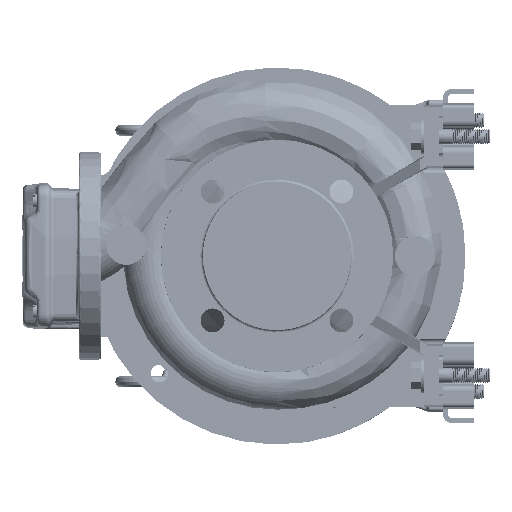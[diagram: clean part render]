
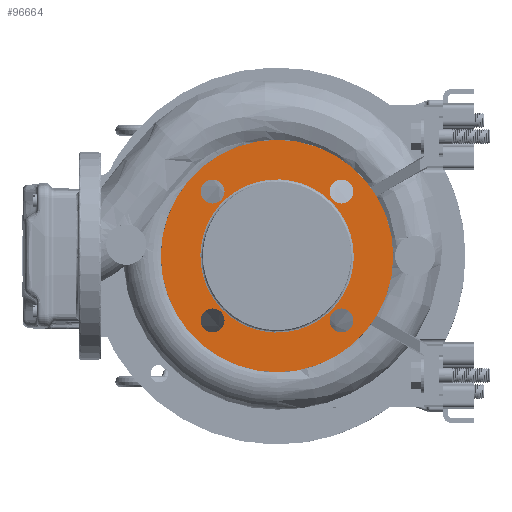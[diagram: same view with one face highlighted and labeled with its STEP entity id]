
A CAD part, left-side view. The second image highlights one B-rep face of the part: STEP entity #96664.
In plain terms, the highlighted planar face has unit normal (-1, 0, 0).
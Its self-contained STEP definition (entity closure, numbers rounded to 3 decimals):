
#2501 = DIRECTION ( 'NONE',  ( 0., 0., 1. ) ) ;
#2571 = DIRECTION ( 'NONE',  ( 0., 0., 1. ) ) ;
#2720 = DIRECTION ( 'NONE',  ( 0., 0., 1. ) ) ;
#2833 = VERTEX_POINT ( 'NONE', #105011 ) ;
#5885 = FACE_BOUND ( 'NONE', #110122, .T. ) ;
#7205 = DIRECTION ( 'NONE',  ( -1., 0., 0. ) ) ;
#7766 = CARTESIAN_POINT ( 'NONE',  ( -33.099, 105.823, 289.961 ) ) ;
#8014 = CARTESIAN_POINT ( 'NONE',  ( -33.099, 96.089, 248.196 ) ) ;
#9478 = CIRCLE ( 'NONE', #89019, 9.5 ) ;
#9586 = CARTESIAN_POINT ( 'NONE',  ( -33.099, 218.089, 126.196 ) ) ;
#11735 = CARTESIAN_POINT ( 'NONE',  ( -33.099, 208.354, 299.461 ) ) ;
#12648 = CIRCLE ( 'NONE', #89490, 92.5 ) ;
#13214 = CARTESIAN_POINT ( 'NONE',  ( -33.099, 157.089, 155.696 ) ) ;
#13859 = EDGE_CURVE ( 'NONE', #72274, #107757, #76980, .T. ) ;
#15950 = VERTEX_POINT ( 'NONE', #54238 ) ;
#17981 = CARTESIAN_POINT ( 'NONE',  ( -33.099, 96.089, 370.196 ) ) ;
#18312 = FACE_BOUND ( 'NONE', #79184, .T. ) ;
#19571 = CARTESIAN_POINT ( 'NONE',  ( -33.099, 105.823, 196.931 ) ) ;
#20904 = CIRCLE ( 'NONE', #84482, 9.5 ) ;
#21179 = CARTESIAN_POINT ( 'NONE',  ( -33.099, 208.354, 206.431 ) ) ;
#24821 = CARTESIAN_POINT ( 'NONE',  ( -33.099, 63.479, 154.586 ) ) ;
#25329 = AXIS2_PLACEMENT_3D ( 'NONE', #65174, #115816, #103385 ) ;
#29990 = DIRECTION ( 'NONE',  ( 0., 0., 1. ) ) ;
#31173 = EDGE_CURVE ( 'NONE', #77508, #107294, #61967, .T. ) ;
#34404 =( BOUNDED_CURVE ( )  B_SPLINE_CURVE ( 3, ( #60278, #9586, #161605, #149959 ),
 .UNSPECIFIED., .F., .F. ) 
 B_SPLINE_CURVE_WITH_KNOTS ( ( 4, 4 ),
 ( 0., 1. ),
 .UNSPECIFIED. ) 
 CURVE ( )  GEOMETRIC_REPRESENTATION_ITEM ( )  RATIONAL_B_SPLINE_CURVE ( ( 0.957, 0.319, 0.319, 0.957 ) ) 
 REPRESENTATION_ITEM ( '' )  );
#34987 = DIRECTION ( 'NONE',  ( -1., 0., 0. ) ) ;
#35347 = AXIS2_PLACEMENT_3D ( 'NONE', #85247, #7205, #133478 ) ;
#36584 = ORIENTED_EDGE ( 'NONE', *, *, #73104, .F. ) ;
#38810 = CARTESIAN_POINT ( 'NONE',  ( -33.099, 105.823, 308.961 ) ) ;
#41739 = EDGE_CURVE ( 'NONE', #41844, #160036, #34404, .T. ) ;
#41844 = VERTEX_POINT ( 'NONE', #69257 ) ;
#43554 = CARTESIAN_POINT ( 'NONE',  ( -33.099, 208.354, 187.431 ) ) ;
#46840 = CARTESIAN_POINT ( 'NONE',  ( -33.099, 105.823, 299.461 ) ) ;
#50323 = CARTESIAN_POINT ( 'NONE',  ( -33.099, 208.354, 196.931 ) ) ;
#50916 = ORIENTED_EDGE ( 'NONE', *, *, #94481, .F. ) ;
#53678 = ORIENTED_EDGE ( 'NONE', *, *, #157392, .F. ) ;
#53796 = CIRCLE ( 'NONE', #93539, 92.5 ) ;
#54238 = CARTESIAN_POINT ( 'NONE',  ( -33.099, 208.354, 289.961 ) ) ;
#55475 = CARTESIAN_POINT ( 'NONE',  ( -33.099, 96.089, 248.196 ) ) ;
#56903 = DIRECTION ( 'NONE',  ( -1., 0., 0. ) ) ;
#57158 = CIRCLE ( 'NONE', #25329, 9.5 ) ;
#57374 = DIRECTION ( 'NONE',  ( -1., 0., 0. ) ) ;
#58540 = EDGE_LOOP ( 'NONE', ( #156363, #36584 ) ) ;
#59915 = CARTESIAN_POINT ( 'NONE',  ( -33.099, 105.823, 206.431 ) ) ;
#60278 = CARTESIAN_POINT ( 'NONE',  ( -33.099, 218.089, 248.196 ) ) ;
#61967 = CIRCLE ( 'NONE', #35347, 9.5 ) ;
#64805 = DIRECTION ( 'NONE',  ( -1., 0., 0. ) ) ;
#65174 = CARTESIAN_POINT ( 'NONE',  ( -33.099, 208.354, 196.931 ) ) ;
#69033 = CIRCLE ( 'NONE', #85022, 9.5 ) ;
#69257 = CARTESIAN_POINT ( 'NONE',  ( -33.099, 218.089, 248.196 ) ) ;
#72274 = VERTEX_POINT ( 'NONE', #7766 ) ;
#73104 = EDGE_CURVE ( 'NONE', #76788, #98744, #57158, .T. ) ;
#74994 = CARTESIAN_POINT ( 'NONE',  ( -33.099, 208.354, 308.961 ) ) ;
#76788 = VERTEX_POINT ( 'NONE', #43554 ) ;
#76980 = CIRCLE ( 'NONE', #103547, 9.5 ) ;
#77508 = VERTEX_POINT ( 'NONE', #80604 ) ;
#78207 = EDGE_LOOP ( 'NONE', ( #53678, #101277 ) ) ;
#79184 = EDGE_LOOP ( 'NONE', ( #144131, #164129 ) ) ;
#80604 = CARTESIAN_POINT ( 'NONE',  ( -33.099, 105.823, 187.431 ) ) ;
#84482 = AXIS2_PLACEMENT_3D ( 'NONE', #19571, #145873, #123361 ) ;
#85022 = AXIS2_PLACEMENT_3D ( 'NONE', #50323, #125942, #125133 ) ;
#85247 = CARTESIAN_POINT ( 'NONE',  ( -33.099, 105.823, 196.931 ) ) ;
#85350 = AXIS2_PLACEMENT_3D ( 'NONE', #24821, #99621, #124543 ) ;
#89019 = AXIS2_PLACEMENT_3D ( 'NONE', #46840, #56903, #108385 ) ;
#89490 = AXIS2_PLACEMENT_3D ( 'NONE', #157857, #117986, #2571 ) ;
#91541 = ORIENTED_EDGE ( 'NONE', *, *, #31173, .F. ) ;
#92191 = CARTESIAN_POINT ( 'NONE',  ( -33.099, 105.823, 299.461 ) ) ;
#93539 = AXIS2_PLACEMENT_3D ( 'NONE', #145471, #57374, #29990 ) ;
#94481 = EDGE_CURVE ( 'NONE', #126008, #15950, #98183, .T. ) ;
#96664 = ADVANCED_FACE ( 'NONE', ( #18312, #5885, #107207, #145425, #161117, #123722 ), #110458, .F. ) ;
#98183 = CIRCLE ( 'NONE', #114047, 9.5 ) ;
#98291 = VERTEX_POINT ( 'NONE', #13214 ) ;
#98744 = VERTEX_POINT ( 'NONE', #21179 ) ;
#99591 = EDGE_CURVE ( 'NONE', #98291, #2833, #53796, .T. ) ;
#99621 = DIRECTION ( 'NONE',  ( 1., 0., 0. ) ) ;
#101277 = ORIENTED_EDGE ( 'NONE', *, *, #13859, .F. ) ;
#103385 = DIRECTION ( 'NONE',  ( 0., 0., 1. ) ) ;
#103547 = AXIS2_PLACEMENT_3D ( 'NONE', #92191, #64805, #2501 ) ;
#103752 = EDGE_CURVE ( 'NONE', #160036, #41844, #104574, .T. ) ;
#104448 = ORIENTED_EDGE ( 'NONE', *, *, #99591, .T. ) ;
#104574 =( BOUNDED_CURVE ( )  B_SPLINE_CURVE ( 3, ( #8014, #17981, #135085, #144294 ),
 .UNSPECIFIED., .F., .T. ) 
 B_SPLINE_CURVE_WITH_KNOTS ( ( 4, 4 ),
 ( 0., 1. ),
 .UNSPECIFIED. ) 
 CURVE ( )  GEOMETRIC_REPRESENTATION_ITEM ( )  RATIONAL_B_SPLINE_CURVE ( ( 0.957, 0.319, 0.319, 0.957 ) ) 
 REPRESENTATION_ITEM ( '' )  );
#105011 = CARTESIAN_POINT ( 'NONE',  ( -33.099, 157.089, 340.696 ) ) ;
#106114 = ORIENTED_EDGE ( 'NONE', *, *, #159513, .T. ) ;
#107207 = FACE_BOUND ( 'NONE', #58540, .T. ) ;
#107294 = VERTEX_POINT ( 'NONE', #59915 ) ;
#107757 = VERTEX_POINT ( 'NONE', #38810 ) ;
#108385 = DIRECTION ( 'NONE',  ( 0., 0., 1. ) ) ;
#110122 = EDGE_LOOP ( 'NONE', ( #50916, #111694 ) ) ;
#110330 = EDGE_CURVE ( 'NONE', #98744, #76788, #69033, .T. ) ;
#110458 = PLANE ( 'NONE',  #85350 ) ;
#111694 = ORIENTED_EDGE ( 'NONE', *, *, #154645, .F. ) ;
#114047 = AXIS2_PLACEMENT_3D ( 'NONE', #11735, #34987, #136381 ) ;
#115816 = DIRECTION ( 'NONE',  ( -1., 0., 0. ) ) ;
#117986 = DIRECTION ( 'NONE',  ( -1., 0., 0. ) ) ;
#118208 = CIRCLE ( 'NONE', #160675, 9.5 ) ;
#123361 = DIRECTION ( 'NONE',  ( 0., 0., 1. ) ) ;
#123722 = FACE_OUTER_BOUND ( 'NONE', #151734, .T. ) ;
#124543 = DIRECTION ( 'NONE',  ( 0., 1., 0. ) ) ;
#125133 = DIRECTION ( 'NONE',  ( 0., 0., 1. ) ) ;
#125268 = ORIENTED_EDGE ( 'NONE', *, *, #133988, .F. ) ;
#125942 = DIRECTION ( 'NONE',  ( -1., 0., 0. ) ) ;
#126008 = VERTEX_POINT ( 'NONE', #74994 ) ;
#130595 = DIRECTION ( 'NONE',  ( -1., 0., 0. ) ) ;
#133478 = DIRECTION ( 'NONE',  ( 0., 0., 1. ) ) ;
#133988 = EDGE_CURVE ( 'NONE', #107294, #77508, #20904, .T. ) ;
#135085 = CARTESIAN_POINT ( 'NONE',  ( -33.099, 218.089, 370.196 ) ) ;
#136381 = DIRECTION ( 'NONE',  ( 0., 0., 1. ) ) ;
#144131 = ORIENTED_EDGE ( 'NONE', *, *, #41739, .F. ) ;
#144294 = CARTESIAN_POINT ( 'NONE',  ( -33.099, 218.089, 248.196 ) ) ;
#145425 = FACE_BOUND ( 'NONE', #152379, .T. ) ;
#145471 = CARTESIAN_POINT ( 'NONE',  ( -33.099, 157.089, 248.196 ) ) ;
#145873 = DIRECTION ( 'NONE',  ( -1., 0., 0. ) ) ;
#149959 = CARTESIAN_POINT ( 'NONE',  ( -33.099, 96.089, 248.196 ) ) ;
#151734 = EDGE_LOOP ( 'NONE', ( #106114, #104448 ) ) ;
#152379 = EDGE_LOOP ( 'NONE', ( #125268, #91541 ) ) ;
#154645 = EDGE_CURVE ( 'NONE', #15950, #126008, #118208, .T. ) ;
#156363 = ORIENTED_EDGE ( 'NONE', *, *, #110330, .F. ) ;
#157392 = EDGE_CURVE ( 'NONE', #107757, #72274, #9478, .T. ) ;
#157857 = CARTESIAN_POINT ( 'NONE',  ( -33.099, 157.089, 248.196 ) ) ;
#158004 = CARTESIAN_POINT ( 'NONE',  ( -33.099, 208.354, 299.461 ) ) ;
#159513 = EDGE_CURVE ( 'NONE', #2833, #98291, #12648, .T. ) ;
#160036 = VERTEX_POINT ( 'NONE', #55475 ) ;
#160675 = AXIS2_PLACEMENT_3D ( 'NONE', #158004, #130595, #2720 ) ;
#161117 = FACE_BOUND ( 'NONE', #78207, .T. ) ;
#161605 = CARTESIAN_POINT ( 'NONE',  ( -33.099, 96.089, 126.196 ) ) ;
#164129 = ORIENTED_EDGE ( 'NONE', *, *, #103752, .F. ) ;
